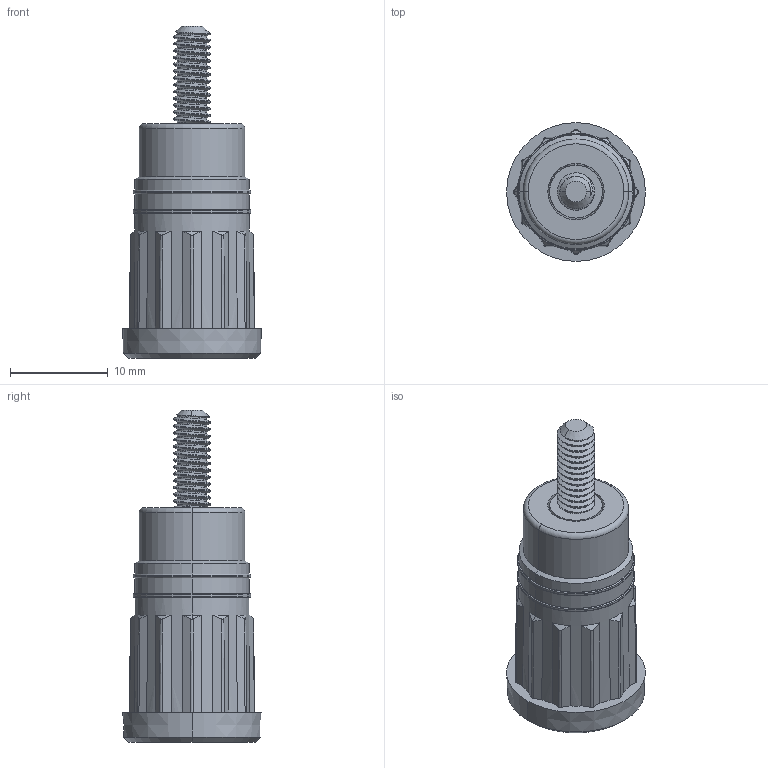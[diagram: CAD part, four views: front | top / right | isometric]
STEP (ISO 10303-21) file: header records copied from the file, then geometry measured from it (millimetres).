
FILE_DESCRIPTION (( 'STEP AP214' ), '1' );
FILE_NAME ('CT2243-9.STEP', '2017-10-12T15:13:38', ( '' ), ( '' ), 'SwSTEP 2.0', 'SolidWorks 2014', '' );
FILE_SCHEMA (( 'AUTOMOTIVE_DESIGN' ));
Length unit declared in the file: millimetre
Products named in the file (5): 440-310; 440-310_440-310-09; CT2243-9; 440-3xx; 440-3xx_440-302
Assembly tree (2 placements, depth 2):
  440-310
  CT2243-9
    440-310_440-310-09
    440-3xx_440-302
  440-3xx
Bounding box: 14.21 x 14.21 x 34 mm (x, y, z)
Volume: 1849.2 mm3; surface area: 3221.4 mm2
Topology: 2 solids, 2 shells, 271 faces, 675 edges, 434 vertices
Faces by surface type: plane 145, cone 58, cylinder 37, torus 16, bspline 15
Entity records: 10139 total; most frequent: CARTESIAN_POINT 3813, ORIENTED_EDGE 1346, DIRECTION 1232, EDGE_CURVE 673, AXIS2_PLACEMENT_3D 461, VERTEX_POINT 434, VECTOR 310, LINE 310
